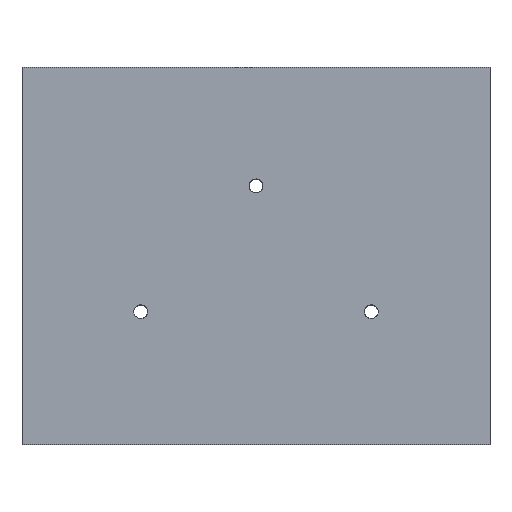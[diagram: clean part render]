
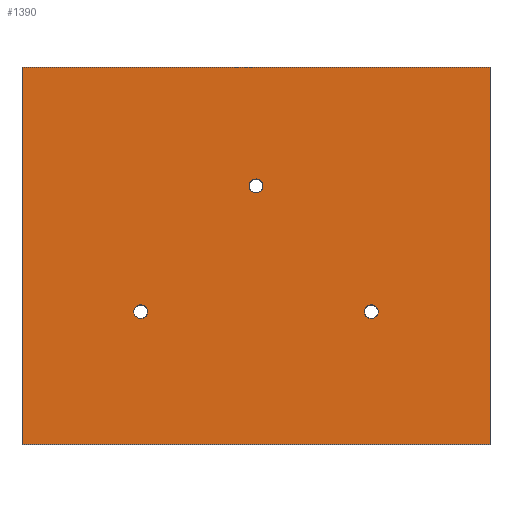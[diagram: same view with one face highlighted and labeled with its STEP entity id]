
A CAD part, top view. The second image highlights one B-rep face of the part: STEP entity #1390.
In plain terms, the highlighted planar face has unit normal (0, 0, 1).
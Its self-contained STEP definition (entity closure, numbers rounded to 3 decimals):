
#17 = DIRECTION ( 'NONE',  ( 0., 0., 1. ) ) ;
#27 = FACE_OUTER_BOUND ( 'NONE', #513, .T. ) ;
#28 = CARTESIAN_POINT ( 'NONE',  ( -33.5, -27., 19. ) ) ;
#30 = VERTEX_POINT ( 'NONE', #1327 ) ;
#43 = CARTESIAN_POINT ( 'NONE',  ( -33.5, -27., 19. ) ) ;
#46 = CIRCLE ( 'NONE', #1545, 1. ) ;
#61 = FACE_BOUND ( 'NONE', #346, .T. ) ;
#64 = EDGE_CURVE ( 'NONE', #1089, #1605, #538, .T. ) ;
#75 = DIRECTION ( 'NONE',  ( 1., 0., 0. ) ) ;
#79 = ORIENTED_EDGE ( 'NONE', *, *, #64, .F. ) ;
#105 = ORIENTED_EDGE ( 'NONE', *, *, #1254, .T. ) ;
#136 = CARTESIAN_POINT ( 'NONE',  ( -16.5, -8., 19. ) ) ;
#140 = DIRECTION ( 'NONE',  ( 0., -1., 0. ) ) ;
#209 = EDGE_CURVE ( 'NONE', #870, #554, #509, .T. ) ;
#218 = CARTESIAN_POINT ( 'NONE',  ( -16.5, -8., 19. ) ) ;
#235 = CARTESIAN_POINT ( 'NONE',  ( 1., 10., 19. ) ) ;
#237 = DIRECTION ( 'NONE',  ( -1., 0., 0. ) ) ;
#307 = EDGE_LOOP ( 'NONE', ( #858, #694 ) ) ;
#311 = ORIENTED_EDGE ( 'NONE', *, *, #1553, .F. ) ;
#332 = AXIS2_PLACEMENT_3D ( 'NONE', #218, #1043, #75 ) ;
#346 = EDGE_LOOP ( 'NONE', ( #1396, #311 ) ) ;
#351 = AXIS2_PLACEMENT_3D ( 'NONE', #661, #908, #1286 ) ;
#369 = CARTESIAN_POINT ( 'NONE',  ( 15.5, -8., 19. ) ) ;
#405 = CARTESIAN_POINT ( 'NONE',  ( 0., 10., 19. ) ) ;
#407 = DIRECTION ( 'NONE',  ( 0., 1., 0. ) ) ;
#435 = DIRECTION ( 'NONE',  ( 1., 0., 0. ) ) ;
#496 = ORIENTED_EDGE ( 'NONE', *, *, #625, .T. ) ;
#509 = CIRCLE ( 'NONE', #351, 1. ) ;
#511 = DIRECTION ( 'NONE',  ( 1., 0., 0. ) ) ;
#513 = EDGE_LOOP ( 'NONE', ( #1116, #105, #1017, #496 ) ) ;
#523 = DIRECTION ( 'NONE',  ( 1., 0., 0. ) ) ;
#538 = CIRCLE ( 'NONE', #834, 1. ) ;
#542 = DIRECTION ( 'NONE',  ( 1., 0., 0. ) ) ;
#554 = VERTEX_POINT ( 'NONE', #369 ) ;
#555 = CARTESIAN_POINT ( 'NONE',  ( 0., 0., 19. ) ) ;
#559 = EDGE_CURVE ( 'NONE', #1007, #1385, #1374, .T. ) ;
#619 = VECTOR ( 'NONE', #237, 1000. ) ;
#625 = EDGE_CURVE ( 'NONE', #1385, #1265, #645, .T. ) ;
#645 = LINE ( 'NONE', #28, #1090 ) ;
#654 = CARTESIAN_POINT ( 'NONE',  ( 33.5, 27., 19. ) ) ;
#661 = CARTESIAN_POINT ( 'NONE',  ( 16.5, -8., 19. ) ) ;
#667 = CIRCLE ( 'NONE', #332, 1. ) ;
#694 = ORIENTED_EDGE ( 'NONE', *, *, #995, .F. ) ;
#710 = CARTESIAN_POINT ( 'NONE',  ( -17.5, -8., 19. ) ) ;
#747 = CARTESIAN_POINT ( 'NONE',  ( -33.5, 27., 19. ) ) ;
#752 = DIRECTION ( 'NONE',  ( 0., 0., 1. ) ) ;
#765 = DIRECTION ( 'NONE',  ( 0., 0., 1. ) ) ;
#766 = CIRCLE ( 'NONE', #1171, 1. ) ;
#769 = CARTESIAN_POINT ( 'NONE',  ( -15.5, -8., 19. ) ) ;
#794 = DIRECTION ( 'NONE',  ( 0., 0., 1. ) ) ;
#805 = DIRECTION ( 'NONE',  ( 1., 0., 0. ) ) ;
#834 = AXIS2_PLACEMENT_3D ( 'NONE', #136, #752, #511 ) ;
#858 = ORIENTED_EDGE ( 'NONE', *, *, #1204, .F. ) ;
#870 = VERTEX_POINT ( 'NONE', #1419 ) ;
#891 = FACE_BOUND ( 'NONE', #907, .T. ) ;
#895 = VERTEX_POINT ( 'NONE', #235 ) ;
#907 = EDGE_LOOP ( 'NONE', ( #1238, #79 ) ) ;
#908 = DIRECTION ( 'NONE',  ( 0., 0., 1. ) ) ;
#962 = LINE ( 'NONE', #747, #619 ) ;
#982 = CARTESIAN_POINT ( 'NONE',  ( -33.5, 27., 19. ) ) ;
#988 = AXIS2_PLACEMENT_3D ( 'NONE', #555, #1540, #435 ) ;
#995 = EDGE_CURVE ( 'NONE', #30, #895, #46, .T. ) ;
#996 = LINE ( 'NONE', #654, #1299 ) ;
#1000 = FACE_BOUND ( 'NONE', #307, .T. ) ;
#1007 = VERTEX_POINT ( 'NONE', #1525 ) ;
#1017 = ORIENTED_EDGE ( 'NONE', *, *, #559, .T. ) ;
#1043 = DIRECTION ( 'NONE',  ( 0., 0., 1. ) ) ;
#1089 = VERTEX_POINT ( 'NONE', #710 ) ;
#1090 = VECTOR ( 'NONE', #523, 1000. ) ;
#1103 = CARTESIAN_POINT ( 'NONE',  ( 0., 10., 19. ) ) ;
#1116 = ORIENTED_EDGE ( 'NONE', *, *, #1582, .T. ) ;
#1171 = AXIS2_PLACEMENT_3D ( 'NONE', #1571, #794, #805 ) ;
#1199 = VECTOR ( 'NONE', #140, 1000. ) ;
#1204 = EDGE_CURVE ( 'NONE', #895, #30, #1462, .T. ) ;
#1238 = ORIENTED_EDGE ( 'NONE', *, *, #1524, .F. ) ;
#1254 = EDGE_CURVE ( 'NONE', #1350, #1007, #962, .T. ) ;
#1265 = VERTEX_POINT ( 'NONE', #1486 ) ;
#1276 = CARTESIAN_POINT ( 'NONE',  ( 33.5, 27., 19. ) ) ;
#1285 = AXIS2_PLACEMENT_3D ( 'NONE', #1103, #17, #1470 ) ;
#1286 = DIRECTION ( 'NONE',  ( 1., 0., 0. ) ) ;
#1299 = VECTOR ( 'NONE', #407, 1000. ) ;
#1327 = CARTESIAN_POINT ( 'NONE',  ( -1., 10., 19. ) ) ;
#1350 = VERTEX_POINT ( 'NONE', #1276 ) ;
#1374 = LINE ( 'NONE', #982, #1199 ) ;
#1385 = VERTEX_POINT ( 'NONE', #43 ) ;
#1390 = ADVANCED_FACE ( 'NONE', ( #1000, #61, #891, #27 ), #1504, .T. ) ;
#1396 = ORIENTED_EDGE ( 'NONE', *, *, #209, .F. ) ;
#1419 = CARTESIAN_POINT ( 'NONE',  ( 17.5, -8., 19. ) ) ;
#1462 = CIRCLE ( 'NONE', #1285, 1. ) ;
#1470 = DIRECTION ( 'NONE',  ( 1., 0., 0. ) ) ;
#1486 = CARTESIAN_POINT ( 'NONE',  ( 33.5, -27., 19. ) ) ;
#1504 = PLANE ( 'NONE',  #988 ) ;
#1524 = EDGE_CURVE ( 'NONE', #1605, #1089, #667, .T. ) ;
#1525 = CARTESIAN_POINT ( 'NONE',  ( -33.5, 27., 19. ) ) ;
#1540 = DIRECTION ( 'NONE',  ( 0., 0., 1. ) ) ;
#1545 = AXIS2_PLACEMENT_3D ( 'NONE', #405, #765, #542 ) ;
#1553 = EDGE_CURVE ( 'NONE', #554, #870, #766, .T. ) ;
#1571 = CARTESIAN_POINT ( 'NONE',  ( 16.5, -8., 19. ) ) ;
#1582 = EDGE_CURVE ( 'NONE', #1265, #1350, #996, .T. ) ;
#1605 = VERTEX_POINT ( 'NONE', #769 ) ;
